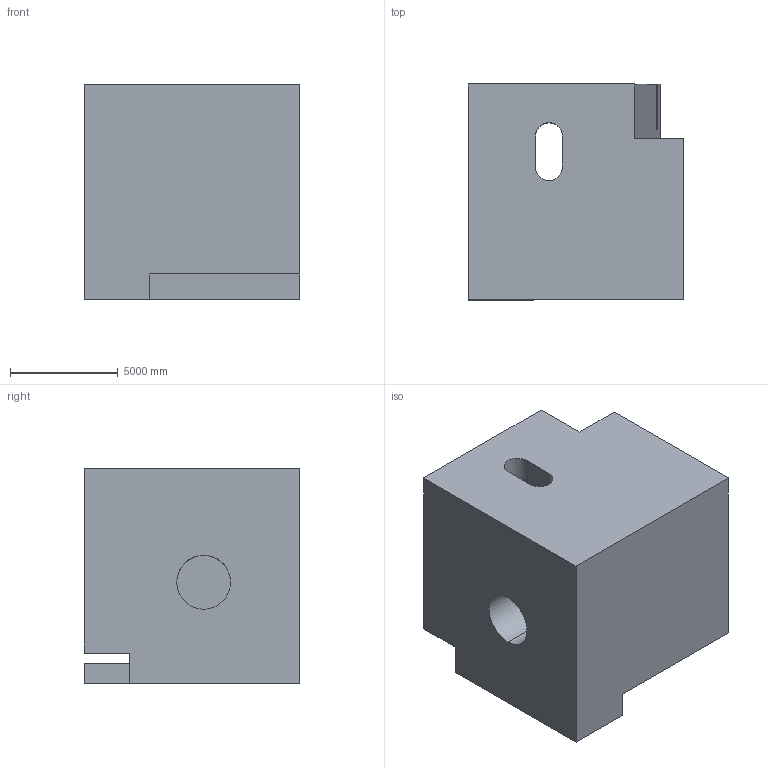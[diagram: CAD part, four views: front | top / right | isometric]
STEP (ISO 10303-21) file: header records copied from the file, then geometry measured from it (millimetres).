
FILE_DESCRIPTION (( 'STEP AP203' ), '1' );
FILE_NAME ('519.STEP', '2022-07-29T11:37:26', ( 'user' ), ( '' ), 'SwSTEP 2.0', 'SolidWorks 2021', '' );
FILE_SCHEMA (( 'CONFIG_CONTROL_DESIGN' ));
Length unit declared in the file: centimetre
Products named in the file (1): 519
Bounding box: 10000 x 10000 x 10000 mm (x, y, z)
Volume: 841354231528.3 mm3; surface area: 736367009.9 mm2
Topology: 1 solids, 1 shells, 32 faces, 95 edges, 64 vertices
Faces by surface type: plane 22, cylinder 10
Entity records: 2412 total; most frequent: CARTESIAN_POINT 1462, ORIENTED_EDGE 190, DIRECTION 167, EDGE_CURVE 95, VECTOR 65, LINE 65, VERTEX_POINT 64, AXIS2_PLACEMENT_3D 51
